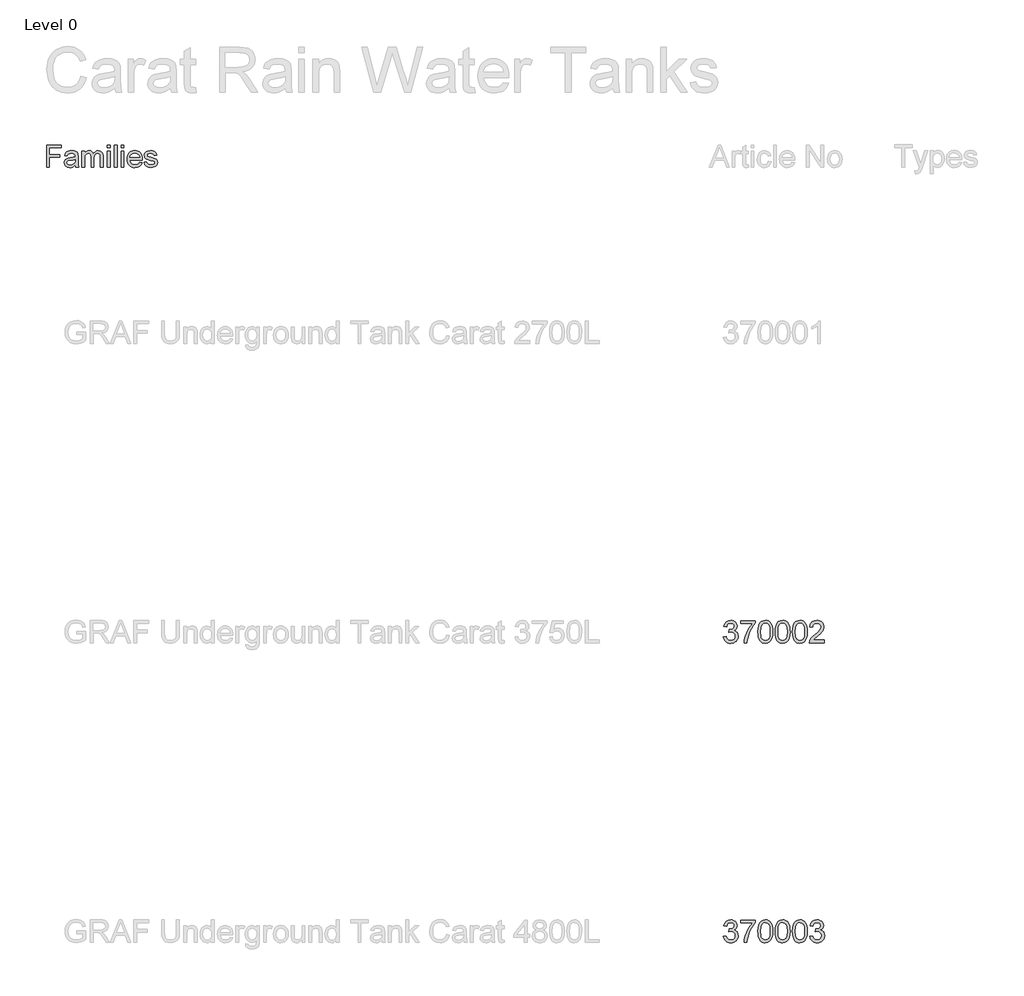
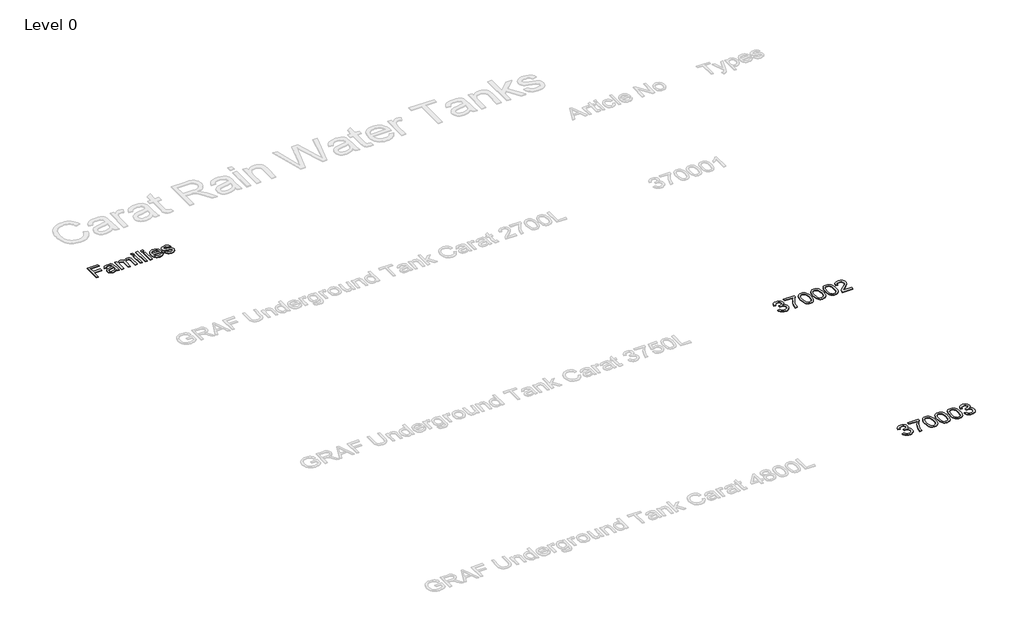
# One storey, part 16 of 19: 3 proxies.
"""IFC4 building model written with IfcOpenShell, lengths in millimetres."""

from ifc_helpers import new_model, si_unit, origin, origin_with_axes, place, context, project, spatial, polyline, outline, extrude, element, save

model = new_model("IFC4")

# Units and contexts
model_context = context("Model", 3, world=origin())
ifc_project = project(units=[si_unit("LENGTHUNIT", "METRE", prefix="MILLI")], contexts=[model_context])

# Site, building, storey
site = spatial("IfcSite", under=ifc_project)
building = spatial("IfcBuilding", under=site)
storey = spatial("IfcBuildingStorey", under=building, Name="Level 0", Elevation=0.0)

# Proxies
placement = place(None, origin())
element("IfcBuildingElementProxy", 1, Name="300mm Arial", ObjectType="300mm Arial", at=placement, inside=storey, context=model_context, shape_type="SweptSolid", body=[
    extrude(outline(polyline([(-15382.9152593, 11653.8274553), (-15382.9152593, 11949.2120707), (-15184.4537209, 11949.2120707), (-15184.4537209, 11912.2889938), (-15345.9921824, 11912.2889938), (-15345.9921824, 11824.5966861), (-15207.530644, 11824.5966861), (-15207.530644, 11787.6736092), (-15345.9921824, 11787.6736092), (-15345.9921824, 11653.8274553), (-15382.9152593, 11653.8274553)])), origin_with_axes(), (0.0, 0.0, 1.0), 10.0),
    extrude(outline(polyline([(-14999.8383363, 11681.519763), (-15017.4795622, 11666.3935611), (-15035.6436247, 11656.4957246), (-15054.7451872, 11651.0329842), (-15075.1989132, 11649.2120707), (-15106.0552834, 11653.5930803), (-15128.8167017, 11666.7361092), (-15142.8521584, 11686.6940419), (-15147.530644, 11711.519763), (-15145.763817, 11726.8262534), (-15140.4633363, 11740.7264938), (-15132.2872545, 11752.6255323), (-15121.8936247, 11761.9284169), (-15096.0402593, 11774.0438015), (-15064.093144, 11779.5966861), (-15026.3407401, 11785.4380323), (-15000.0546824, 11792.2889938), (-14999.8383363, 11800.5101476), (-15002.3804036, 11816.988513), (-15010.0066055, 11827.769763), (-15027.061894, 11835.7745707), (-15050.8239132, 11838.44284), (-15072.8191055, 11836.6669986), (-15088.1796824, 11831.3394746), (-15098.654442, 11821.4867101), (-15105.9921824, 11806.1351476), (-15142.9152593, 11810.7505323), (-15136.5060045, 11830.94284), (-15126.9417017, 11846.8082246), (-15113.3299228, 11858.941638), (-15094.7782401, 11867.9380323), (-15072.0889372, 11873.5089457), (-15046.0642978, 11875.3659169), (-15021.1033603, 11873.7252919), (-15001.3167017, 11868.8034169), (-14986.3978315, 11861.4025755), (-14976.0402593, 11852.3250515), (-14969.171269, 11841.1020948), (-14964.718144, 11827.2649553), (-14962.9152593, 11794.957263), (-14962.9152593, 11749.019763), (-14961.0402593, 11684.8731284), (-14953.6844901, 11653.8274553), (-14990.607567, 11653.8274553), (-14999.8383363, 11681.519763)]), holes=[polyline([(-14999.8383363, 11755.3659169), (-15059.405644, 11744.0438015), (-15091.1724709, 11738.0582246), (-15105.5594901, 11728.3226476), (-15110.607567, 11714.1159169), (-15107.858168, 11703.1363496), (-15099.6099709, 11694.1399553), (-15086.0432642, 11688.1363496), (-15067.3383363, 11686.1351476), (-15047.5066055, 11688.3436813), (-15029.982567, 11694.9692823), (-15015.7758363, 11704.7319025), (-15005.8960286, 11716.3514938), (-15001.515019, 11728.3226476), (-15000.0546824, 11744.9091861), (-14999.8383363, 11755.3659169)])]), origin_with_axes(), (0.0, 0.0, 1.0), 10.0),
    extrude(outline(polyline([(-14912.1460286, 11653.8274553), (-14912.1460286, 11870.7505323), (-14875.2229517, 11870.7505323), (-14875.2229517, 11835.0534169), (-14864.1171824, 11851.4506525), (-14849.8383363, 11864.2962053), (-14832.873192, 11872.598489), (-14813.7085286, 11875.3659169), (-14793.1736728, 11872.5444025), (-14776.7133363, 11864.0798592), (-14764.4176632, 11850.5311813), (-14756.3767978, 11832.457263), (-14742.9182642, 11851.2297991), (-14727.5667017, 11864.6387534), (-14710.3221103, 11872.684126), (-14691.1844901, 11875.3659169), (-14663.4290815, 11870.9037775), (-14642.9032401, 11857.5173592), (-14630.2199468, 11834.8460851), (-14625.9921824, 11802.5293784), (-14625.9921824, 11653.8274553), (-14662.9152593, 11653.8274553), (-14662.9152593, 11786.6639938), (-14666.3407401, 11817.4933207), (-14671.154442, 11825.9939217), (-14678.7445863, 11832.6736092), (-14688.5072065, 11837.0005323), (-14699.8383363, 11838.44284), (-14719.8413411, 11834.7469265), (-14736.1484324, 11823.6591861), (-14746.9927834, 11804.4224073), (-14750.607567, 11776.2793784), (-14750.607567, 11653.8274553), (-14787.530644, 11653.8274553), (-14787.530644, 11790.7745707), (-14789.6670622, 11811.6519746), (-14796.076317, 11826.5438015), (-14807.3533603, 11835.4680803), (-14824.093144, 11838.44284), (-14838.3179036, 11836.4596669), (-14851.4248747, 11830.5101476), (-14862.2421824, 11820.738513), (-14869.5979517, 11807.2889938), (-14873.8167017, 11788.629138), (-14875.2229517, 11763.2264938), (-14875.2229517, 11653.8274553), (-14912.1460286, 11653.8274553)])), origin_with_axes(), (0.0, 0.0, 1.0), 10.0),
    extrude(outline(polyline([(-14570.607567, 11912.2889938), (-14570.607567, 11949.2120707), (-14533.6844901, 11949.2120707), (-14533.6844901, 11912.2889938), (-14570.607567, 11912.2889938)])), origin_with_axes(), (0.0, 0.0, 1.0), 10.0),
    extrude(outline(polyline([(-14570.607567, 11653.8274553), (-14570.607567, 11870.7505323), (-14533.6844901, 11870.7505323), (-14533.6844901, 11653.8274553), (-14570.607567, 11653.8274553)])), origin_with_axes(), (0.0, 0.0, 1.0), 10.0),
    extrude(outline(polyline([(-14478.2998747, 11653.8274553), (-14478.2998747, 11949.2120707), (-14441.3767978, 11949.2120707), (-14441.3767978, 11653.8274553), (-14478.2998747, 11653.8274553)])), origin_with_axes(), (0.0, 0.0, 1.0), 10.0),
    extrude(outline(polyline([(-14385.9921824, 11912.2889938), (-14385.9921824, 11949.2120707), (-14349.0691055, 11949.2120707), (-14349.0691055, 11912.2889938), (-14385.9921824, 11912.2889938)])), origin_with_axes(), (0.0, 0.0, 1.0), 10.0),
    extrude(outline(polyline([(-14385.9921824, 11653.8274553), (-14385.9921824, 11870.7505323), (-14349.0691055, 11870.7505323), (-14349.0691055, 11653.8274553), (-14385.9921824, 11653.8274553)])), origin_with_axes(), (0.0, 0.0, 1.0), 10.0),
    extrude(outline(polyline([(-14141.8094901, 11718.44284), (-14105.607567, 11713.8274553), (-14118.6514372, 11686.5498111), (-14139.4657401, 11666.1591861), (-14167.5817257, 11653.4488496), (-14202.530644, 11649.2120707), (-14225.4408002, 11651.039745), (-14245.8539613, 11656.5227678), (-14263.7701271, 11665.6611392), (-14279.1892978, 11678.4548592), (-14291.5886367, 11694.547858), (-14300.4453074, 11713.5840659), (-14305.7593098, 11735.563483), (-14307.530644, 11760.4861092), (-14305.741281, 11786.2538375), (-14300.373192, 11808.9656765), (-14291.4263771, 11828.621626), (-14278.9008363, 11845.2216861), (-14263.5222305, 11858.4097871), (-14246.0162209, 11867.8298592), (-14226.3828074, 11873.4819025), (-14204.6219901, 11875.3659169), (-14183.5620442, 11873.4864097), (-14164.5168218, 11867.847888), (-14147.486323, 11858.450352), (-14132.4705478, 11845.2938015), (-14120.213186, 11828.7297991), (-14111.4579276, 11809.1099073), (-14106.2047726, 11786.434126), (-14104.4537209, 11760.7024553), (-14104.670067, 11750.7505323), (-14270.607567, 11750.7505323), (-14264.2163411, 11723.1123111), (-14249.3695863, 11702.7938015), (-14227.9423026, 11690.2998111), (-14201.8094901, 11686.1351476), (-14182.1580478, 11688.0642342), (-14165.607567, 11693.8514938), (-14152.1580478, 11703.8575034), (-14141.8094901, 11718.44284)]), holes=[polyline([(-14270.607567, 11787.6736092), (-14141.3767978, 11787.6736092), (-14146.3707882, 11807.1808207), (-14156.1604517, 11821.1351476), (-14177.686894, 11834.1159169), (-14204.7662209, 11838.44284), (-14229.655043, 11834.9903159), (-14250.2349709, 11824.6327438), (-14264.5408603, 11808.4879121), (-14270.607567, 11787.6736092)])]), origin_with_axes(), (0.0, 0.0, 1.0), 10.0),
    extrude(outline(polyline([(-14081.3767978, 11718.44284), (-14044.4537209, 11723.0582246), (-14038.6304036, 11707.2649553), (-14027.3623747, 11695.6543784), (-14010.577519, 11688.5149553), (-13988.2037209, 11686.1351476), (-13966.1003555, 11688.316638), (-13950.5594901, 11694.8611092), (-13941.3647786, 11704.3442823), (-13938.2998747, 11715.3418784), (-13941.3828074, 11724.7529361), (-13950.6316055, 11731.9284169), (-13988.6364132, 11742.457263), (-14044.2373747, 11760.5221669), (-14058.3088892, 11769.5996909), (-14068.5042017, 11781.6159169), (-14074.6971103, 11795.8046188), (-14076.7614132, 11811.3995707), (-14075.1027593, 11825.7054601), (-14070.1267978, 11838.91159), (-14062.2842497, 11850.4951236), (-14052.0258363, 11859.9332246), (-14028.5522786, 11870.8587053), (-13996.7854517, 11875.3659169), (-13972.7529997, 11873.5540178), (-13951.857567, 11868.1183207), (-13935.0546824, 11859.5906765), (-13923.2998747, 11848.5029361), (-13915.5114132, 11834.0347871), (-13910.607567, 11815.3659169), (-13947.530644, 11810.7505323), (-13952.1911007, 11822.3701236), (-13961.4128555, 11831.1231284), (-13975.2860526, 11836.6129121), (-13993.9008363, 11838.44284), (-14015.1027593, 11836.6940419), (-14029.2373747, 11831.4476476), (-14037.1880959, 11823.8755323), (-14039.8383363, 11815.1495707), (-14035.4392978, 11804.4043784), (-14021.6652593, 11796.25534), (-13989.8623747, 11788.394763), (-13935.6676632, 11771.0149553), (-13921.3527593, 11762.7036573), (-13910.499394, 11751.3274553), (-13903.6574468, 11736.8502919), (-13901.3767978, 11719.2361092), (-13904.0540815, 11701.0269746), (-13912.0859324, 11683.8995707), (-13925.1658603, 11669.1970467), (-13942.9873747, 11658.2625515), (-13964.513817, 11651.4746909), (-13988.7085286, 11649.2120707), (-14025.9380959, 11653.5750515), (-14053.107567, 11666.6639938), (-14071.2445863, 11688.3346669), (-14081.3767978, 11718.44284)])), origin_with_axes(), (0.0, 0.0, 1.0), 10.0),
])
element("IfcBuildingElementProxy", 2, Name="300mm Arial", ObjectType="300mm Arial", at=placement, inside=storey, context=model_context, shape_type="SweptSolid", body=[
    extrude(outline(polyline([(-6346.595864, 5379.074324), (-6308.9247477, 5383.7832135), (-6300.491053, 5360.1100071), (-6288.139415, 5344.1255344), (-6271.2628285, 5335.020455), (-6249.2542881, 5331.9854286), (-6223.428972, 5336.1608892), (-6203.4897679, 5348.6872712), (-6190.7426568, 5367.3756765), (-6186.4936197, 5390.0372074), (-6190.7058686, 5411.5491071), (-6203.3426151, 5428.9959107), (-6222.4724789, 5440.5566024), (-6246.1640793, 5444.4101663), (-6272.5780066, 5440.289888), (-6268.3841519, 5477.9610043), (-6262.3508871, 5477.5195459), (-6239.7813267, 5480.2234785), (-6219.6029993, 5488.3352765), (-6205.3659661, 5502.057275), (-6200.6202883, 5521.5918089), (-6204.059985, 5537.8613901), (-6214.379075, 5551.0591567), (-6230.1244244, 5559.8055512), (-6249.8428993, 5562.721016), (-6269.5981624, 5559.77796), (-6285.748182, 5550.9487921), (-6297.5388, 5536.2335123), (-6304.2158582, 5515.6321206), (-6341.8869745, 5520.3410101), (-6330.7953323, 5554.1677596), (-6311.0584633, 5579.4228585), (-6284.0559248, 5595.1498138), (-6251.1672745, 5600.3921323), (-6227.484871, 5597.8077613), (-6205.7338481, 5590.0546482), (-6187.3949306, 5577.8225719), (-6173.9488437, 5561.801311), (-6165.69909, 5543.3428319), (-6162.949172, 5523.7991009), (-6165.5611342, 5505.5889421), (-6173.3970207, 5489.0710405), (-6186.3464669, 5474.9995542), (-6204.2991083, 5464.1286413), (-6180.7178724, 5454.6004976), (-6163.2434776, 5438.3769016), (-6152.427747, 5416.3407701), (-6148.8225034, 5389.3750198), (-6150.6251252, 5370.2635502), (-6156.0329905, 5352.6603967), (-6165.0460994, 5336.5655594), (-6177.6644518, 5321.9790383), (-6193.0373207, 5309.8757207), (-6210.3139789, 5301.2304938), (-6229.4944264, 5296.0433577), (-6250.5786633, 5294.3143123), (-6269.6349506, 5295.7904388), (-6286.9989808, 5300.2188183), (-6302.6707538, 5307.5994508), (-6316.6502696, 5317.9323364), (-6328.3719097, 5330.6104696), (-6337.2700555, 5345.0268453), (-6343.3447069, 5361.1814634), (-6346.595864, 5379.074324)])), origin_with_axes(), (0.0, 0.0, 1.0), 10.0),
    extrude(outline(polyline([(-6115.8602767, 5558.0121264), (-6115.8602767, 5595.6832427), (-5918.086916, 5595.6832427), (-5918.086916, 5565.2226135), (-5946.2758739, 5529.547257), (-5974.1889203, 5484.17821), (-5998.8094228, 5433.2541448), (-6017.1207491, 5380.9137339), (-6026.0970698, 5341.7526956), (-6031.100265, 5299.0232018), (-6068.7713813, 5299.0232018), (-6064.6970882, 5337.8531464), (-6053.7985841, 5384.0039427), (-6036.3701745, 5432.923051), (-6012.7061652, 5480.0579316), (-5985.0782274, 5522.6678637), (-5955.7580324, 5558.0121264), (-6115.8602767, 5558.0121264)])), origin_with_axes(), (0.0, 0.0, 1.0), 10.0),
    extrude(outline(polyline([(-5885.1246893, 5447.2796459), (-5882.3563773, 5495.5181725), (-5874.0514412, 5533.9894321), (-5860.2926546, 5563.282036), (-5841.1627909, 5583.9845953), (-5816.5238942, 5596.290248), (-5786.238009, 5600.3921323), (-5763.0246551, 5597.9641111), (-5742.2393224, 5590.6800476), (-5724.8568981, 5578.8250503), (-5711.8522696, 5562.6842278), (-5702.0298203, 5542.3955357), (-5694.1939338, 5518.0969299), (-5689.06198, 5487.2408276), (-5687.3513287, 5447.2796459), (-5690.0920495, 5399.3170308), (-5698.3142121, 5360.9377416), (-5711.9902253, 5331.6175466), (-5731.0924979, 5310.8322139), (-5755.7865768, 5298.4437877), (-5786.238009, 5294.3143123), (-5806.9865535, 5296.107737), (-5825.3806533, 5301.4880112), (-5841.4203083, 5310.4551348), (-5855.1055185, 5323.0091079), (-5868.2389057, 5345.7028285), (-5877.6198966, 5373.9791583), (-5883.2484911, 5407.8380975), (-5885.1246893, 5447.2796459)]), holes=[polyline([(-5847.453573, 5447.3532223), (-5843.038989, 5388.0966299), (-5837.5207591, 5367.8286312), (-5829.7952372, 5353.8008309), (-5810.0767623, 5337.4392792), (-5786.238009, 5331.9854286), (-5762.3992557, 5337.4576733), (-5742.6807807, 5353.8744073), (-5734.9552588, 5367.9252003), (-5729.4370289, 5388.1886004), (-5725.022445, 5447.3532223), (-5729.2898761, 5505.2762424), (-5734.6241651, 5525.4775625), (-5742.0921696, 5539.8387559), (-5761.7738563, 5557.0004509), (-5786.6794674, 5562.721016), (-5810.2607033, 5557.6810326), (-5829.206626, 5542.5610826), (-5837.1896653, 5526.9260978), (-5842.8918362, 5505.8464595), (-5847.453573, 5447.3532223)])]), origin_with_axes(), (0.0, 0.0, 1.0), 10.0),
    extrude(outline(polyline([(-5654.3891019, 5447.2796459), (-5651.6207899, 5495.5181725), (-5643.3158539, 5533.9894321), (-5629.5570672, 5563.282036), (-5610.4272035, 5583.9845953), (-5585.7883069, 5596.290248), (-5555.5024216, 5600.3921323), (-5532.2890677, 5597.9641111), (-5511.503735, 5590.6800476), (-5494.1213107, 5578.8250503), (-5481.1166822, 5562.6842278), (-5471.2942329, 5542.3955357), (-5463.4583464, 5518.0969299), (-5458.3263926, 5487.2408276), (-5456.6157413, 5447.2796459), (-5459.3564622, 5399.3170308), (-5467.5786248, 5360.9377416), (-5481.2546379, 5331.6175466), (-5500.3569105, 5310.8322139), (-5525.0509895, 5298.4437877), (-5555.5024216, 5294.3143123), (-5576.2509661, 5296.107737), (-5594.6450659, 5301.4880112), (-5610.6847209, 5310.4551348), (-5624.3699311, 5323.0091079), (-5637.5033183, 5345.7028285), (-5646.8843092, 5373.9791583), (-5652.5129037, 5407.8380975), (-5654.3891019, 5447.2796459)]), holes=[polyline([(-5616.7179856, 5447.3532223), (-5612.3034017, 5388.0966299), (-5606.7851717, 5367.8286312), (-5599.0596498, 5353.8008309), (-5579.3411749, 5337.4392792), (-5555.5024216, 5331.9854286), (-5531.6636683, 5337.4576733), (-5511.9451934, 5353.8744073), (-5504.2196715, 5367.9252003), (-5498.7014415, 5388.1886004), (-5494.2868576, 5447.3532223), (-5498.5542887, 5505.2762424), (-5503.8885777, 5525.4775625), (-5511.3565822, 5539.8387559), (-5531.0382689, 5557.0004509), (-5555.94388, 5562.721016), (-5579.5251159, 5557.6810326), (-5598.4710386, 5542.5610826), (-5606.4540779, 5526.9260978), (-5612.1562489, 5505.8464595), (-5616.7179856, 5447.3532223)])]), origin_with_axes(), (0.0, 0.0, 1.0), 10.0),
    extrude(outline(polyline([(-5423.6535145, 5447.2796459), (-5420.8852025, 5495.5181725), (-5412.5802665, 5533.9894321), (-5398.8214799, 5563.282036), (-5379.6916161, 5583.9845953), (-5355.0527195, 5596.290248), (-5324.7668342, 5600.3921323), (-5301.5534803, 5597.9641111), (-5280.7681476, 5590.6800476), (-5263.3857233, 5578.8250503), (-5250.3810948, 5562.6842278), (-5240.5586455, 5542.3955357), (-5232.722759, 5518.0969299), (-5227.5908052, 5487.2408276), (-5225.8801539, 5447.2796459), (-5228.6208748, 5399.3170308), (-5236.8430374, 5360.9377416), (-5250.5190506, 5331.6175466), (-5269.6213231, 5310.8322139), (-5294.3154021, 5298.4437877), (-5324.7668342, 5294.3143123), (-5345.5153788, 5296.107737), (-5363.9094785, 5301.4880112), (-5379.9491335, 5310.4551348), (-5393.6343437, 5323.0091079), (-5406.767731, 5345.7028285), (-5416.1487218, 5373.9791583), (-5421.7773164, 5407.8380975), (-5423.6535145, 5447.2796459)]), holes=[polyline([(-5385.9823982, 5447.3532223), (-5381.5678143, 5388.0966299), (-5376.0495844, 5367.8286312), (-5368.3240625, 5353.8008309), (-5348.6055875, 5337.4392792), (-5324.7668342, 5331.9854286), (-5300.9280809, 5337.4576733), (-5281.209606, 5353.8744073), (-5273.4840841, 5367.9252003), (-5267.9658542, 5388.1886004), (-5263.5512702, 5447.3532223), (-5267.8187014, 5505.2762424), (-5273.1529903, 5525.4775625), (-5280.6209948, 5539.8387559), (-5300.3026815, 5557.0004509), (-5325.2082926, 5562.721016), (-5348.7895285, 5557.6810326), (-5367.7354513, 5542.5610826), (-5375.7184906, 5526.9260978), (-5381.4206615, 5505.8464595), (-5385.9823982, 5447.3532223)])]), origin_with_axes(), (0.0, 0.0, 1.0), 10.0),
    extrude(outline(polyline([(-4999.8534561, 5336.6943181), (-4999.8534561, 5299.0232018), (-5197.6268167, 5299.0232018), (-5193.5801147, 5324.9956707), (-5184.2910944, 5345.2935598), (-5170.6978546, 5364.9844436), (-5151.034562, 5385.5950323), (-5123.5353829, 5408.6520364), (-5082.8844224, 5444.7596542), (-5058.4938461, 5471.4127048), (-5046.298558, 5493.0441661), (-5042.2334619, 5514.0870162), (-5046.0686317, 5532.9501655), (-5057.5741411, 5548.6311355), (-5075.260068, 5559.1985459), (-5097.6364904, 5562.721016), (-5121.1349528, 5559.2813193), (-5139.3910969, 5548.9622293), (-5151.1725178, 5532.5730865), (-5155.2468108, 5510.923231), (-5192.9179272, 5515.6321206), (-5183.7852566, 5552.0708322), (-5175.238898, 5566.6067695), (-5164.0391905, 5578.6870946), (-5150.4436515, 5588.1830486), (-5134.7097985, 5594.9658728), (-5096.82715, 5600.3921323), (-5076.6373263, 5598.8838161), (-5058.6685901, 5594.3588675), (-5042.9209414, 5586.8172866), (-5029.3943803, 5576.2590734), (-5018.5303651, 5563.465977), (-5010.7703543, 5549.2197467), (-5006.1143478, 5533.5203826), (-5004.5623456, 5516.3678846), (-5006.2362087, 5498.3508639), (-5011.2577979, 5480.6465428), (-5020.1697393, 5462.6387192), (-5033.5146586, 5443.7111905), (-5054.787435, 5421.114039), (-5087.4829473, 5392.0973466), (-5130.8194464, 5355.8609701), (-5147.8155945, 5336.6943181), (-4999.8534561, 5336.6943181)])), origin_with_axes(), (0.0, 0.0, 1.0), 10.0),
])
element("IfcBuildingElementProxy", 3, Name="300mm Arial", ObjectType="300mm Arial", at=placement, inside=storey, context=model_context, shape_type="SweptSolid", body=[
    extrude(outline(polyline([(-6346.595864, 1379.074324), (-6308.9247477, 1383.7832135), (-6300.491053, 1360.1100071), (-6288.139415, 1344.1255344), (-6271.2628285, 1335.020455), (-6249.2542881, 1331.9854286), (-6223.428972, 1336.1608892), (-6203.4897679, 1348.6872712), (-6190.7426568, 1367.3756765), (-6186.4936197, 1390.0372074), (-6190.7058686, 1411.5491071), (-6203.3426151, 1428.9959107), (-6222.4724789, 1440.5566024), (-6246.1640793, 1444.4101663), (-6272.5780066, 1440.289888), (-6268.3841519, 1477.9610043), (-6262.3508871, 1477.5195459), (-6239.7813267, 1480.2234785), (-6219.6029993, 1488.3352765), (-6205.3659661, 1502.057275), (-6200.6202883, 1521.5918089), (-6204.059985, 1537.8613901), (-6214.379075, 1551.0591567), (-6230.1244244, 1559.8055512), (-6249.8428993, 1562.721016), (-6269.5981624, 1559.77796), (-6285.748182, 1550.9487921), (-6297.5388, 1536.2335123), (-6304.2158582, 1515.6321206), (-6341.8869745, 1520.3410101), (-6330.7953323, 1554.1677596), (-6311.0584633, 1579.4228585), (-6284.0559248, 1595.1498138), (-6251.1672745, 1600.3921323), (-6227.484871, 1597.8077613), (-6205.7338481, 1590.0546482), (-6187.3949306, 1577.8225719), (-6173.9488437, 1561.801311), (-6165.69909, 1543.3428319), (-6162.949172, 1523.7991009), (-6165.5611342, 1505.5889421), (-6173.3970207, 1489.0710405), (-6186.3464669, 1474.9995542), (-6204.2991083, 1464.1286413), (-6180.7178724, 1454.6004976), (-6163.2434776, 1438.3769016), (-6152.427747, 1416.3407701), (-6148.8225034, 1389.3750198), (-6150.6251252, 1370.2635502), (-6156.0329905, 1352.6603967), (-6165.0460994, 1336.5655594), (-6177.6644518, 1321.9790383), (-6193.0373207, 1309.8757207), (-6210.3139789, 1301.2304938), (-6229.4944264, 1296.0433577), (-6250.5786633, 1294.3143123), (-6269.6349506, 1295.7904388), (-6286.9989808, 1300.2188183), (-6302.6707538, 1307.5994508), (-6316.6502696, 1317.9323364), (-6328.3719097, 1330.6104696), (-6337.2700555, 1345.0268453), (-6343.3447069, 1361.1814634), (-6346.595864, 1379.074324)])), origin_with_axes(), (0.0, 0.0, 1.0), 10.0),
    extrude(outline(polyline([(-6115.8602767, 1558.0121264), (-6115.8602767, 1595.6832427), (-5918.086916, 1595.6832427), (-5918.086916, 1565.2226135), (-5946.2758739, 1529.547257), (-5974.1889203, 1484.17821), (-5998.8094228, 1433.2541448), (-6017.1207491, 1380.9137339), (-6026.0970698, 1341.7526956), (-6031.100265, 1299.0232018), (-6068.7713813, 1299.0232018), (-6064.6970882, 1337.8531464), (-6053.7985841, 1384.0039427), (-6036.3701745, 1432.923051), (-6012.7061652, 1480.0579316), (-5985.0782274, 1522.6678637), (-5955.7580324, 1558.0121264), (-6115.8602767, 1558.0121264)])), origin_with_axes(), (0.0, 0.0, 1.0), 10.0),
    extrude(outline(polyline([(-5885.1246893, 1447.2796459), (-5882.3563773, 1495.5181725), (-5874.0514412, 1533.9894321), (-5860.2926546, 1563.282036), (-5841.1627909, 1583.9845953), (-5816.5238942, 1596.290248), (-5786.238009, 1600.3921323), (-5763.0246551, 1597.9641111), (-5742.2393224, 1590.6800476), (-5724.8568981, 1578.8250503), (-5711.8522696, 1562.6842278), (-5702.0298203, 1542.3955357), (-5694.1939338, 1518.0969299), (-5689.06198, 1487.2408276), (-5687.3513287, 1447.2796459), (-5690.0920495, 1399.3170308), (-5698.3142121, 1360.9377416), (-5711.9902253, 1331.6175466), (-5731.0924979, 1310.8322139), (-5755.7865768, 1298.4437877), (-5786.238009, 1294.3143123), (-5806.9865535, 1296.107737), (-5825.3806533, 1301.4880112), (-5841.4203083, 1310.4551348), (-5855.1055185, 1323.0091079), (-5868.2389057, 1345.7028285), (-5877.6198966, 1373.9791583), (-5883.2484911, 1407.8380975), (-5885.1246893, 1447.2796459)]), holes=[polyline([(-5847.453573, 1447.3532223), (-5843.038989, 1388.0966299), (-5837.5207591, 1367.8286312), (-5829.7952372, 1353.8008309), (-5810.0767623, 1337.4392792), (-5786.238009, 1331.9854286), (-5762.3992557, 1337.4576733), (-5742.6807807, 1353.8744073), (-5734.9552588, 1367.9252003), (-5729.4370289, 1388.1886004), (-5725.022445, 1447.3532223), (-5729.2898761, 1505.2762424), (-5734.6241651, 1525.4775625), (-5742.0921696, 1539.8387559), (-5761.7738563, 1557.0004509), (-5786.6794674, 1562.721016), (-5810.2607033, 1557.6810326), (-5829.206626, 1542.5610826), (-5837.1896653, 1526.9260978), (-5842.8918362, 1505.8464595), (-5847.453573, 1447.3532223)])]), origin_with_axes(), (0.0, 0.0, 1.0), 10.0),
    extrude(outline(polyline([(-5654.3891019, 1447.2796459), (-5651.6207899, 1495.5181725), (-5643.3158539, 1533.9894321), (-5629.5570672, 1563.282036), (-5610.4272035, 1583.9845953), (-5585.7883069, 1596.290248), (-5555.5024216, 1600.3921323), (-5532.2890677, 1597.9641111), (-5511.503735, 1590.6800476), (-5494.1213107, 1578.8250503), (-5481.1166822, 1562.6842278), (-5471.2942329, 1542.3955357), (-5463.4583464, 1518.0969299), (-5458.3263926, 1487.2408276), (-5456.6157413, 1447.2796459), (-5459.3564622, 1399.3170308), (-5467.5786248, 1360.9377416), (-5481.2546379, 1331.6175466), (-5500.3569105, 1310.8322139), (-5525.0509895, 1298.4437877), (-5555.5024216, 1294.3143123), (-5576.2509661, 1296.107737), (-5594.6450659, 1301.4880112), (-5610.6847209, 1310.4551348), (-5624.3699311, 1323.0091079), (-5637.5033183, 1345.7028285), (-5646.8843092, 1373.9791583), (-5652.5129037, 1407.8380975), (-5654.3891019, 1447.2796459)]), holes=[polyline([(-5616.7179856, 1447.3532223), (-5612.3034017, 1388.0966299), (-5606.7851717, 1367.8286312), (-5599.0596498, 1353.8008309), (-5579.3411749, 1337.4392792), (-5555.5024216, 1331.9854286), (-5531.6636683, 1337.4576733), (-5511.9451934, 1353.8744073), (-5504.2196715, 1367.9252003), (-5498.7014415, 1388.1886004), (-5494.2868576, 1447.3532223), (-5498.5542887, 1505.2762424), (-5503.8885777, 1525.4775625), (-5511.3565822, 1539.8387559), (-5531.0382689, 1557.0004509), (-5555.94388, 1562.721016), (-5579.5251159, 1557.6810326), (-5598.4710386, 1542.5610826), (-5606.4540779, 1526.9260978), (-5612.1562489, 1505.8464595), (-5616.7179856, 1447.3532223)])]), origin_with_axes(), (0.0, 0.0, 1.0), 10.0),
    extrude(outline(polyline([(-5423.6535145, 1447.2796459), (-5420.8852025, 1495.5181725), (-5412.5802665, 1533.9894321), (-5398.8214799, 1563.282036), (-5379.6916161, 1583.9845953), (-5355.0527195, 1596.290248), (-5324.7668342, 1600.3921323), (-5301.5534803, 1597.9641111), (-5280.7681476, 1590.6800476), (-5263.3857233, 1578.8250503), (-5250.3810948, 1562.6842278), (-5240.5586455, 1542.3955357), (-5232.722759, 1518.0969299), (-5227.5908052, 1487.2408276), (-5225.8801539, 1447.2796459), (-5228.6208748, 1399.3170308), (-5236.8430374, 1360.9377416), (-5250.5190506, 1331.6175466), (-5269.6213231, 1310.8322139), (-5294.3154021, 1298.4437877), (-5324.7668342, 1294.3143123), (-5345.5153788, 1296.107737), (-5363.9094785, 1301.4880112), (-5379.9491335, 1310.4551348), (-5393.6343437, 1323.0091079), (-5406.767731, 1345.7028285), (-5416.1487218, 1373.9791583), (-5421.7773164, 1407.8380975), (-5423.6535145, 1447.2796459)]), holes=[polyline([(-5385.9823982, 1447.3532223), (-5381.5678143, 1388.0966299), (-5376.0495844, 1367.8286312), (-5368.3240625, 1353.8008309), (-5348.6055875, 1337.4392792), (-5324.7668342, 1331.9854286), (-5300.9280809, 1337.4576733), (-5281.209606, 1353.8744073), (-5273.4840841, 1367.9252003), (-5267.9658542, 1388.1886004), (-5263.5512702, 1447.3532223), (-5267.8187014, 1505.2762424), (-5273.1529903, 1525.4775625), (-5280.6209948, 1539.8387559), (-5300.3026815, 1557.0004509), (-5325.2082926, 1562.721016), (-5348.7895285, 1557.6810326), (-5367.7354513, 1542.5610826), (-5375.7184906, 1526.9260978), (-5381.4206615, 1505.8464595), (-5385.9823982, 1447.3532223)])]), origin_with_axes(), (0.0, 0.0, 1.0), 10.0),
    extrude(outline(polyline([(-5192.9179272, 1379.074324), (-5155.2468108, 1383.7832135), (-5146.8131161, 1360.1100071), (-5134.4614781, 1344.1255344), (-5117.5848916, 1335.020455), (-5095.5763512, 1331.9854286), (-5069.7510352, 1336.1608892), (-5049.811831, 1348.6872712), (-5037.0647199, 1367.3756765), (-5032.8156829, 1390.0372074), (-5037.0279317, 1411.5491071), (-5049.6646782, 1428.9959107), (-5068.794542, 1440.5566024), (-5092.4861425, 1444.4101663), (-5118.9000697, 1440.289888), (-5114.706215, 1477.9610043), (-5108.6729503, 1477.5195459), (-5086.1033899, 1480.2234785), (-5065.9250624, 1488.3352765), (-5051.6880292, 1502.057275), (-5046.9423515, 1521.5918089), (-5050.3820481, 1537.8613901), (-5060.7011381, 1551.0591567), (-5076.4464875, 1559.8055512), (-5096.1649624, 1562.721016), (-5115.9202256, 1559.77796), (-5132.0702452, 1550.9487921), (-5143.8608631, 1536.2335123), (-5150.5379213, 1515.6321206), (-5188.2090376, 1520.3410101), (-5177.1173955, 1554.1677596), (-5157.3805264, 1579.4228585), (-5130.377988, 1595.1498138), (-5097.4893376, 1600.3921323), (-5073.8069342, 1597.8077613), (-5052.0559112, 1590.0546482), (-5033.7169937, 1577.8225719), (-5020.2709068, 1561.801311), (-5012.0211531, 1543.3428319), (-5009.2712352, 1523.7991009), (-5011.8831973, 1505.5889421), (-5019.7190838, 1489.0710405), (-5032.6685301, 1474.9995542), (-5050.6211714, 1464.1286413), (-5027.0399355, 1454.6004976), (-5009.5655408, 1438.3769016), (-4998.7498101, 1416.3407701), (-4995.1445665, 1389.3750198), (-4996.9471883, 1370.2635502), (-5002.3550537, 1352.6603967), (-5011.3681625, 1336.5655594), (-5023.986515, 1321.9790383), (-5039.3593838, 1309.8757207), (-5056.636042, 1301.2304938), (-5075.8164896, 1296.0433577), (-5096.9007264, 1294.3143123), (-5115.9570138, 1295.7904388), (-5133.3210439, 1300.2188183), (-5148.9928169, 1307.5994508), (-5162.9723327, 1317.9323364), (-5174.6939728, 1330.6104696), (-5183.5921186, 1345.0268453), (-5189.66677, 1361.1814634), (-5192.9179272, 1379.074324)])), origin_with_axes(), (0.0, 0.0, 1.0), 10.0),
])

save(model, "model.ifc")
